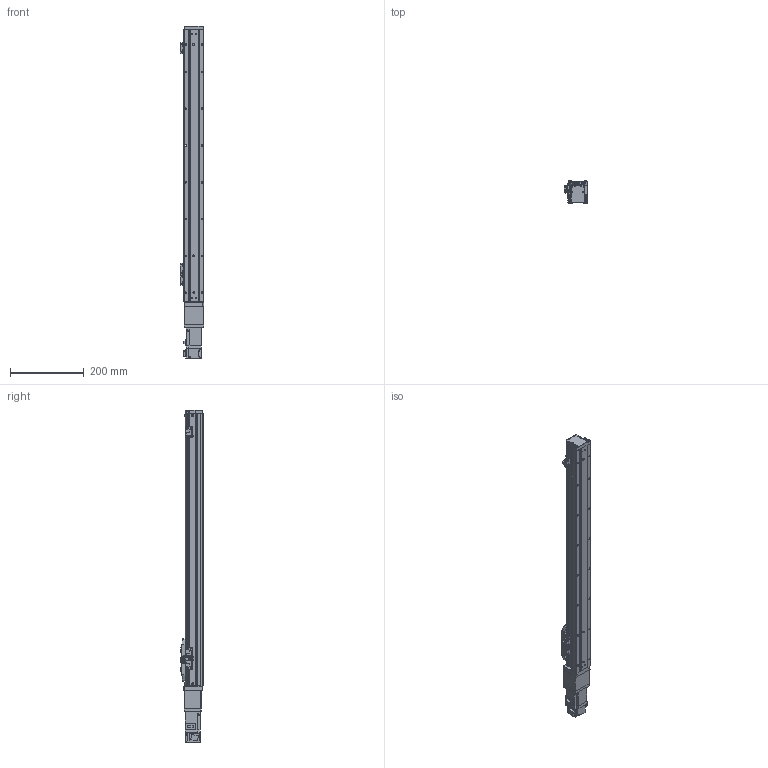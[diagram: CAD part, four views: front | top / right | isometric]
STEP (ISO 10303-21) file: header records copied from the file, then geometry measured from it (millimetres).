
FILE_DESCRIPTION (( 'STEP AP203' ), '1' );
FILE_NAME ('GTH5-600-BC-M10-C4.step', '2022-09-23T00:40:40', ( '微软用户' ), ( '微软中国' ), 'SwSTEP 2.0', 'SolidWorks 2020', '' );
FILE_SCHEMA (( 'CONFIG_CONTROL_DESIGN' ));
Length unit declared in the file: millimetre
Products named in the file (20): GTH50-004; GTH50-023; CTHA60-027; GBT 70.3-M3℅6; GBT 70.1-M3℅6; BTH-M3X5X6; GBT96.1-2002 3×0.8; GTH50-001_600; CTHA60-013; GTH50-024; GBT 70.1-M4×16; CTHA60-006-2_CTHA60-006-1; GBT 70.1-M2.5×6; GTH50-003; HG-KR13; GTH50-028; GTH50-006; GTH50-013; GTH5-600-BC-M10-C4; GTH50-022-1
Assembly tree (60 placements, depth 2):
  GTH5-600-BC-M10-C4
    GTH50-006
    GTH50-004
    GBT 70.3-M3℅6  x6
    BTH-M3X5X6  x8
    GTH50-001_600
    GBT 70.1-M4×16  x8
    GTH50-003
    GTH50-013
    GTH50-023  x3
    GBT 70.1-M3℅6  x12
    GBT96.1-2002 3×0.8  x6
    GTH50-024  x3
    GBT 70.1-M2.5×6  x2
    GTH50-028  x2
    GTH50-022-1
    CTHA60-027
    CTHA60-013
    CTHA60-006-2_CTHA60-006-1
    HG-KR13
Bounding box: 63.8 x 60 x 902.6 mm (x, y, z)
Volume: 1873675.3 mm3; surface area: 296834.2 mm2
Topology: 62 solids, 62 shells, 2053 faces, 4716 edges, 2878 vertices
Faces by surface type: plane 1105, cylinder 547, cone 235, torus 158, sphere 8
Entity records: 34255 total; most frequent: DIRECTION 5535, CARTESIAN_POINT 5415, ORIENTED_EDGE 5118, EDGE_CURVE 2559, AXIS2_PLACEMENT_3D 1904, LINE 1727, VECTOR 1727, VERTEX_POINT 1618
